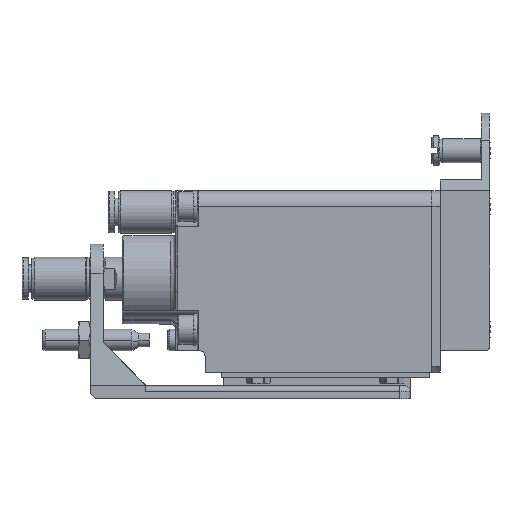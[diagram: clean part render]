
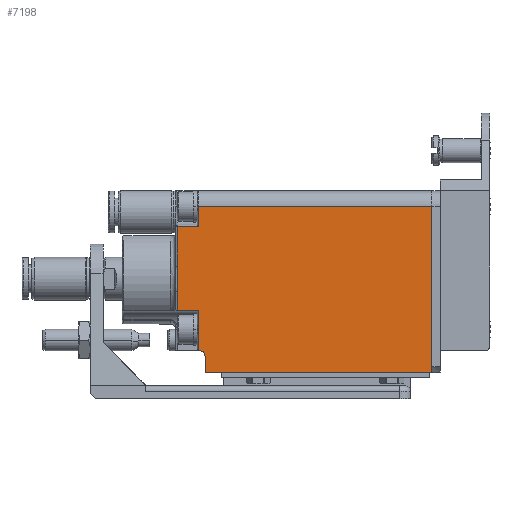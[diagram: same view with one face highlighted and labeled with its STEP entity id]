
A CAD part, left-side view. The second image highlights one B-rep face of the part: STEP entity #7198.
In plain terms, the highlighted planar face has unit normal (-1, 0, 0).
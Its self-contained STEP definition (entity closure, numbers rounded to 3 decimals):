
#310 = VECTOR ( 'NONE', #20966, 1000. ) ;
#511 = CARTESIAN_POINT ( 'NONE',  ( -9.5, 0., -19.5 ) ) ;
#1548 = VECTOR ( 'NONE', #14310, 1000. ) ;
#1802 = DIRECTION ( 'NONE',  ( 0., -1., 0. ) ) ;
#2134 = ORIENTED_EDGE ( 'NONE', *, *, #4061, .T. ) ;
#2299 = LINE ( 'NONE', #31604, #10553 ) ;
#2333 = ORIENTED_EDGE ( 'NONE', *, *, #21958, .T. ) ;
#2962 = CARTESIAN_POINT ( 'NONE',  ( -9.5, 47.7, 0.369 ) ) ;
#3277 = VERTEX_POINT ( 'NONE', #39477 ) ;
#4061 = EDGE_CURVE ( 'NONE', #36932, #26699, #13453, .T. ) ;
#4455 = DIRECTION ( 'NONE',  ( 0., 1., 0. ) ) ;
#4635 = VERTEX_POINT ( 'NONE', #26579 ) ;
#4926 = ORIENTED_EDGE ( 'NONE', *, *, #27538, .T. ) ;
#5256 = ORIENTED_EDGE ( 'NONE', *, *, #30055, .T. ) ;
#6046 = ORIENTED_EDGE ( 'NONE', *, *, #18029, .F. ) ;
#6628 = CARTESIAN_POINT ( 'NONE',  ( -9.5, 43.7, -8. ) ) ;
#6814 = ORIENTED_EDGE ( 'NONE', *, *, #24309, .F. ) ;
#6849 = ORIENTED_EDGE ( 'NONE', *, *, #23548, .T. ) ;
#7198 = ADVANCED_FACE ( 'NONE', ( #27584 ), #35420, .T. ) ;
#7368 = LINE ( 'NONE', #29319, #22791 ) ;
#7935 = CARTESIAN_POINT ( 'NONE',  ( -9.5, 43.87, -19.5 ) ) ;
#8078 = CARTESIAN_POINT ( 'NONE',  ( -9.5, 43.7, -15.5 ) ) ;
#8981 = CARTESIAN_POINT ( 'NONE',  ( -9.5, 47.7, -3.917 ) ) ;
#9422 = CARTESIAN_POINT ( 'NONE',  ( -9.5, 43.5, -15.5 ) ) ;
#10519 = LINE ( 'NONE', #31662, #16767 ) ;
#10540 = VECTOR ( 'NONE', #16528, 1000. ) ;
#10553 = VECTOR ( 'NONE', #37743, 1000. ) ;
#10612 = VECTOR ( 'NONE', #4455, 1000. ) ;
#10905 = ORIENTED_EDGE ( 'NONE', *, *, #12835, .T. ) ;
#11944 = CARTESIAN_POINT ( 'NONE',  ( -9.5, 47.7, 7.7 ) ) ;
#12084 = CARTESIAN_POINT ( 'NONE',  ( -9.5, 47.74, -1.887 ) ) ;
#12199 = CIRCLE ( 'NONE', #37292, 1. ) ;
#12366 = ORIENTED_EDGE ( 'NONE', *, *, #13935, .T. ) ;
#12835 = EDGE_CURVE ( 'NONE', #4635, #36932, #33966, .T. ) ;
#13269 = B_SPLINE_CURVE_WITH_KNOTS ( 'NONE', 3,
 ( #27443, #8981, #30527, #12084, #33576, #15202, #36664 ),
 .UNSPECIFIED., .F., .F.,
 ( 4, 1, 1, 1, 4 ),
 ( 0., 0.286, 0.571, 0.714, 1. ),
 .UNSPECIFIED. ) ;
#13453 = LINE ( 'NONE', #31987, #36987 ) ;
#13935 = EDGE_CURVE ( 'NONE', #19319, #31050, #26180, .T. ) ;
#14184 = CARTESIAN_POINT ( 'NONE',  ( -9.5, 47.7, -4. ) ) ;
#14310 = DIRECTION ( 'NONE',  ( 0., 0., -1. ) ) ;
#14422 = EDGE_CURVE ( 'NONE', #31834, #36794, #7368, .T. ) ;
#14616 = CARTESIAN_POINT ( 'NONE',  ( -9.5, 39.226, -22.6 ) ) ;
#15063 = DIRECTION ( 'NONE',  ( 0., 0., -1. ) ) ;
#15093 = EDGE_LOOP ( 'NONE', ( #19044, #6046, #12366, #24106, #2333, #6814, #6849, #39863, #10905, #2134, #17492, #5256, #4926 ) ) ;
#15202 = CARTESIAN_POINT ( 'NONE',  ( -9.5, 47.7, -0.083 ) ) ;
#15212 = DIRECTION ( 'NONE',  ( 1., 0., 0. ) ) ;
#16066 = CARTESIAN_POINT ( 'NONE',  ( -9.5, 47.7, -8. ) ) ;
#16205 = CARTESIAN_POINT ( 'NONE',  ( -9.5, 47.7, -4.369 ) ) ;
#16528 = DIRECTION ( 'NONE',  ( 0., 1., 0. ) ) ;
#16767 = VECTOR ( 'NONE', #25498, 1000. ) ;
#16884 = EDGE_CURVE ( 'NONE', #29285, #4635, #20195, .T. ) ;
#16987 = EDGE_CURVE ( 'NONE', #39294, #31050, #25947, .T. ) ;
#17492 = ORIENTED_EDGE ( 'NONE', *, *, #33251, .T. ) ;
#17684 = CARTESIAN_POINT ( 'NONE',  ( -9.5, 0., 11.5 ) ) ;
#17713 = DIRECTION ( 'NONE',  ( 0., 0., 1. ) ) ;
#18029 = EDGE_CURVE ( 'NONE', #19319, #36794, #13269, .T. ) ;
#18820 = LINE ( 'NONE', #25236, #10612 ) ;
#19032 = CARTESIAN_POINT ( 'NONE',  ( -9.5, 43.7, 11.5 ) ) ;
#19044 = ORIENTED_EDGE ( 'NONE', *, *, #14422, .T. ) ;
#19054 = CARTESIAN_POINT ( 'NONE',  ( -9.5, 43.87, 11.5 ) ) ;
#19319 = VERTEX_POINT ( 'NONE', #16205 ) ;
#19795 = DIRECTION ( 'NONE',  ( 0., 0., 1. ) ) ;
#20195 = LINE ( 'NONE', #33441, #36512 ) ;
#20966 = DIRECTION ( 'NONE',  ( 0., 0., -1. ) ) ;
#21958 = EDGE_CURVE ( 'NONE', #39294, #31346, #24944, .T. ) ;
#22516 = LINE ( 'NONE', #19054, #31652 ) ;
#22791 = VECTOR ( 'NONE', #38592, 1000. ) ;
#23548 = EDGE_CURVE ( 'NONE', #37440, #29285, #12199, .T. ) ;
#24106 = ORIENTED_EDGE ( 'NONE', *, *, #16987, .F. ) ;
#24309 = EDGE_CURVE ( 'NONE', #37440, #31346, #10519, .T. ) ;
#24944 = LINE ( 'NONE', #36239, #310 ) ;
#25236 = CARTESIAN_POINT ( 'NONE',  ( -9.5, 43.87, 7.7 ) ) ;
#25498 = DIRECTION ( 'NONE',  ( 0., 1., 0. ) ) ;
#25947 = LINE ( 'NONE', #34916, #10540 ) ;
#26180 = LINE ( 'NONE', #14184, #1548 ) ;
#26579 = CARTESIAN_POINT ( 'NONE',  ( -9.5, 42.5, -19.5 ) ) ;
#26699 = VERTEX_POINT ( 'NONE', #17684 ) ;
#27443 = CARTESIAN_POINT ( 'NONE',  ( -9.5, 47.7, -4.369 ) ) ;
#27538 = EDGE_CURVE ( 'NONE', #3277, #31834, #18820, .T. ) ;
#27584 = FACE_OUTER_BOUND ( 'NONE', #15093, .T. ) ;
#28466 = AXIS2_PLACEMENT_3D ( 'NONE', #14616, #36077, #17713 ) ;
#29285 = VERTEX_POINT ( 'NONE', #31486 ) ;
#29319 = CARTESIAN_POINT ( 'NONE',  ( -9.5, 47.7, -4. ) ) ;
#30055 = EDGE_CURVE ( 'NONE', #35894, #3277, #2299, .T. ) ;
#30527 = CARTESIAN_POINT ( 'NONE',  ( -9.5, 47.728, -3.015 ) ) ;
#31050 = VERTEX_POINT ( 'NONE', #16066 ) ;
#31346 = VERTEX_POINT ( 'NONE', #8078 ) ;
#31486 = CARTESIAN_POINT ( 'NONE',  ( -9.5, 42.5, -16.5 ) ) ;
#31604 = CARTESIAN_POINT ( 'NONE',  ( -9.5, 43.7, -4. ) ) ;
#31652 = VECTOR ( 'NONE', #37397, 1000. ) ;
#31662 = CARTESIAN_POINT ( 'NONE',  ( -9.5, 45.75, -15.5 ) ) ;
#31834 = VERTEX_POINT ( 'NONE', #11944 ) ;
#31987 = CARTESIAN_POINT ( 'NONE',  ( -9.5, 0., -4. ) ) ;
#33016 = VECTOR ( 'NONE', #1802, 1000. ) ;
#33251 = EDGE_CURVE ( 'NONE', #26699, #35894, #22516, .T. ) ;
#33441 = CARTESIAN_POINT ( 'NONE',  ( -9.5, 42.5, -4. ) ) ;
#33576 = CARTESIAN_POINT ( 'NONE',  ( -9.5, 47.72, -0.759 ) ) ;
#33582 = CARTESIAN_POINT ( 'NONE',  ( -9.5, 43.5, -16.5 ) ) ;
#33966 = LINE ( 'NONE', #7935, #33016 ) ;
#34916 = CARTESIAN_POINT ( 'NONE',  ( -9.5, 45.86, -8. ) ) ;
#35420 = PLANE ( 'NONE',  #28466 ) ;
#35894 = VERTEX_POINT ( 'NONE', #19032 ) ;
#36077 = DIRECTION ( 'NONE',  ( -1., 0., 0. ) ) ;
#36239 = CARTESIAN_POINT ( 'NONE',  ( -9.5, 43.7, -4. ) ) ;
#36512 = VECTOR ( 'NONE', #15063, 1000. ) ;
#36664 = CARTESIAN_POINT ( 'NONE',  ( -9.5, 47.7, 0.369 ) ) ;
#36669 = DIRECTION ( 'NONE',  ( 0., 0., -1. ) ) ;
#36794 = VERTEX_POINT ( 'NONE', #2962 ) ;
#36932 = VERTEX_POINT ( 'NONE', #511 ) ;
#36987 = VECTOR ( 'NONE', #19795, 1000. ) ;
#37292 = AXIS2_PLACEMENT_3D ( 'NONE', #33582, #15212, #36669 ) ;
#37397 = DIRECTION ( 'NONE',  ( 0., 1., 0. ) ) ;
#37440 = VERTEX_POINT ( 'NONE', #9422 ) ;
#37743 = DIRECTION ( 'NONE',  ( 0., 0., -1. ) ) ;
#38592 = DIRECTION ( 'NONE',  ( 0., 0., -1. ) ) ;
#39294 = VERTEX_POINT ( 'NONE', #6628 ) ;
#39477 = CARTESIAN_POINT ( 'NONE',  ( -9.5, 43.7, 7.7 ) ) ;
#39863 = ORIENTED_EDGE ( 'NONE', *, *, #16884, .T. ) ;
